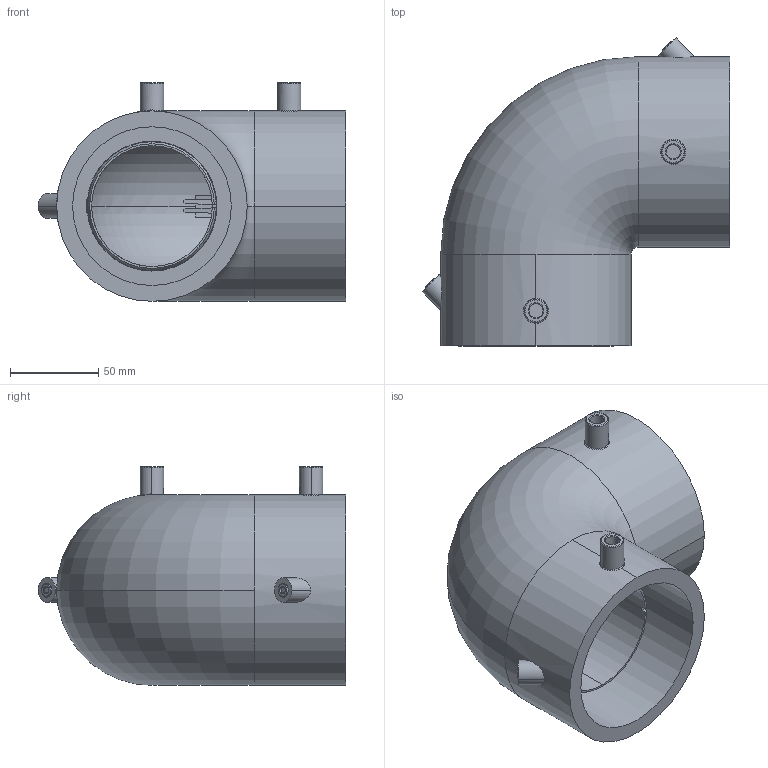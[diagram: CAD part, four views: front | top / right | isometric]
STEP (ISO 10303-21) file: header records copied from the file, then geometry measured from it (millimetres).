
FILE_DESCRIPTION (( 'STEP AP203' ), '1' );
FILE_NAME ('KP_23-90C.step', '2011-08-08T11:37:15', ( '' ), ( '' ), 'SwSTEP 2.0', 'SolidWorks 2011', '' );
FILE_SCHEMA (( 'CONFIG_CONTROL_DESIGN' ));
Length unit declared in the file: millimetre
Products named in the file (1): KP_23-90C
Bounding box: 174.61 x 174.61 x 124 mm (x, y, z)
Volume: 692783.9 mm3; surface area: 168541.9 mm2
Topology: 1 solids, 3 shells, 212 faces, 590 edges, 378 vertices
Faces by surface type: plane 80, cylinder 72, torus 29, cone 19, bspline 12
Entity records: 8550 total; most frequent: CARTESIAN_POINT 3276, ORIENTED_EDGE 1172, DIRECTION 1016, EDGE_CURVE 586, AXIS2_PLACEMENT_3D 409, VERTEX_POINT 378, EDGE_LOOP 228, FACE_OUTER_BOUND 212
